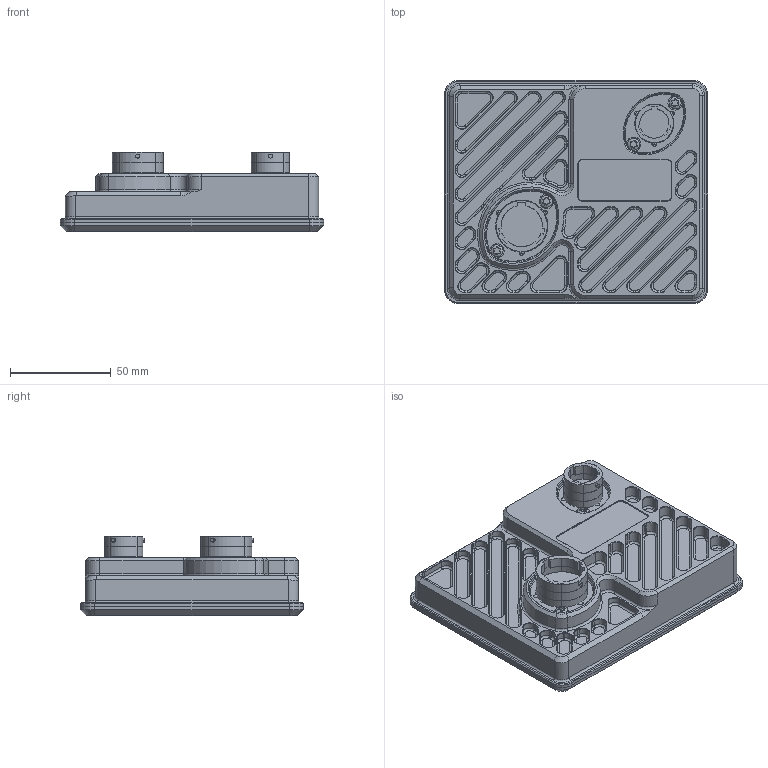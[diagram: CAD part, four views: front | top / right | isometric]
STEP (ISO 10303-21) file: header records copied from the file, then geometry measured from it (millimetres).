
FILE_DESCRIPTION(('CATIA V5 STEP Exchange'),'2;1');
FILE_NAME('T:\GDI8\260529_sent_to_AA\GDI8 - Customer Data\GDI8 Assembly.stp','2026-05-29T13:36:42+00:00',('none'),('none'),'CATIA Version 5 Release 19 SP 9 (IN-10)','CATIA V5 STEP AP203','none');
FILE_SCHEMA(('CONFIG_CONTROL_DESIGN'));
Products named in the file (1): GDI8 Assembly
Bounding box: 131 x 111 x 39.76 mm (x, y, z)
Volume: 315705.8 mm3; surface area: 91998.5 mm2
Topology: 26 solids, 146 shells, 1628 faces, 4045 edges, 2714 vertices
Faces by surface type: cylinder 636, plane 438, torus 227, cone 193, bspline 102, sphere 32
Entity records: 48972 total; most frequent: CARTESIAN_POINT 13911, ORIENTED_EDGE 7470, DIRECTION 5801, EDGE_CURVE 4045, AXIS2_PLACEMENT_3D 3031, VERTEX_POINT 2714, EDGE_LOOP 1789, CIRCLE 1787
